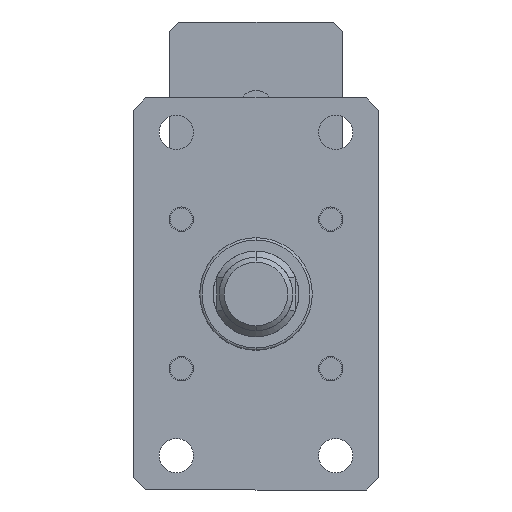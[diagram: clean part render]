
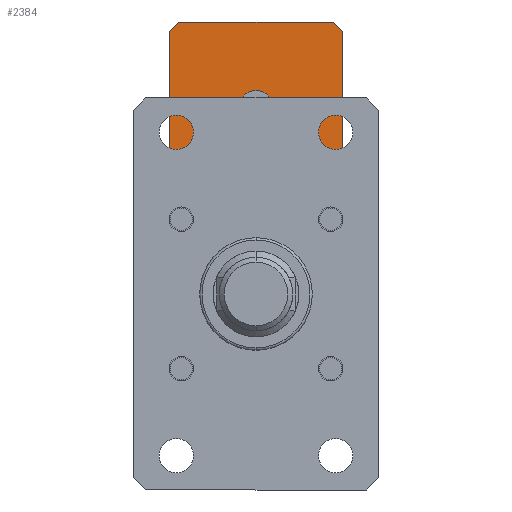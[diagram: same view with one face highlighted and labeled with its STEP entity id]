
A CAD part, front view. The second image highlights one B-rep face of the part: STEP entity #2384.
In plain terms, the highlighted planar face has unit normal (0, -1, 0).
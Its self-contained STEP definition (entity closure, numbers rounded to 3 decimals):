
#124 = ORIENTED_EDGE ( 'NONE', *, *, #5521, .T. ) ;
#230 = ORIENTED_EDGE ( 'NONE', *, *, #1427, .F. ) ;
#272 = CARTESIAN_POINT ( 'NONE',  ( -31.5, 160., 40. ) ) ;
#286 = DIRECTION ( 'NONE',  ( 1., 0., 0. ) ) ;
#388 = CARTESIAN_POINT ( 'NONE',  ( 31.5, 160., 111. ) ) ;
#442 = VECTOR ( 'NONE', #559, 1000. ) ;
#477 = CARTESIAN_POINT ( 'NONE',  ( -35.5, 160., 111. ) ) ;
#514 = LINE ( 'NONE', #477, #4788 ) ;
#559 = DIRECTION ( 'NONE',  ( 0.707, 0., -0.707 ) ) ;
#670 = LINE ( 'NONE', #2531, #6254 ) ;
#721 = ORIENTED_EDGE ( 'NONE', *, *, #3285, .T. ) ;
#755 = LINE ( 'NONE', #5013, #3542 ) ;
#827 = VERTEX_POINT ( 'NONE', #388 ) ;
#854 = ORIENTED_EDGE ( 'NONE', *, *, #5944, .T. ) ;
#894 = VECTOR ( 'NONE', #2028, 1000. ) ;
#903 = DIRECTION ( 'NONE',  ( 0., 1., 0. ) ) ;
#951 = DIRECTION ( 'NONE',  ( 0., -1., 0. ) ) ;
#1174 = CARTESIAN_POINT ( 'NONE',  ( -35.5, 160., 44. ) ) ;
#1205 = LINE ( 'NONE', #2081, #6780 ) ;
#1338 = CARTESIAN_POINT ( 'NONE',  ( -35.5, 160., 40. ) ) ;
#1339 = CARTESIAN_POINT ( 'NONE',  ( 31.5, 160., 40. ) ) ;
#1388 = AXIS2_PLACEMENT_3D ( 'NONE', #4273, #951, #4843 ) ;
#1427 = EDGE_CURVE ( 'NONE', #5703, #4968, #1205, .T. ) ;
#1730 = CIRCLE ( 'NONE', #1388, 7.5 ) ;
#1778 = DIRECTION ( 'NONE',  ( 0., -1., 0. ) ) ;
#1963 = VERTEX_POINT ( 'NONE', #4812 ) ;
#1995 = PLANE ( 'NONE',  #3439 ) ;
#2028 = DIRECTION ( 'NONE',  ( -0.707, 0., 0.707 ) ) ;
#2081 = CARTESIAN_POINT ( 'NONE',  ( 35.5, 160., 111. ) ) ;
#2094 = VERTEX_POINT ( 'NONE', #1174 ) ;
#2170 = LINE ( 'NONE', #2194, #5132 ) ;
#2171 = ORIENTED_EDGE ( 'NONE', *, *, #4460, .F. ) ;
#2194 = CARTESIAN_POINT ( 'NONE',  ( 35.5, 160., 44. ) ) ;
#2318 = VERTEX_POINT ( 'NONE', #1339 ) ;
#2384 = ADVANCED_FACE ( 'NONE', ( #6369, #3393 ), #1995, .F. ) ;
#2413 = VERTEX_POINT ( 'NONE', #272 ) ;
#2531 = CARTESIAN_POINT ( 'NONE',  ( -35.5, 160., 111. ) ) ;
#2624 = EDGE_CURVE ( 'NONE', #1963, #2094, #514, .T. ) ;
#2759 = EDGE_LOOP ( 'NONE', ( #3368, #124, #854, #7064, #230, #3969, #5614, #721 ) ) ;
#2781 = CARTESIAN_POINT ( 'NONE',  ( -35.5, 160., 44. ) ) ;
#3285 = EDGE_CURVE ( 'NONE', #6484, #1963, #755, .T. ) ;
#3368 = ORIENTED_EDGE ( 'NONE', *, *, #2624, .T. ) ;
#3393 = FACE_OUTER_BOUND ( 'NONE', #2759, .T. ) ;
#3439 = AXIS2_PLACEMENT_3D ( 'NONE', #7006, #903, #4802 ) ;
#3542 = VECTOR ( 'NONE', #5575, 1000. ) ;
#3675 = LINE ( 'NONE', #5361, #894 ) ;
#3735 = VECTOR ( 'NONE', #6922, 1000. ) ;
#3931 = CARTESIAN_POINT ( 'NONE',  ( 0., 160., 83. ) ) ;
#3934 = CIRCLE ( 'NONE', #5546, 7.5 ) ;
#3969 = ORIENTED_EDGE ( 'NONE', *, *, #4719, .T. ) ;
#4273 = CARTESIAN_POINT ( 'NONE',  ( 0., 160., 75.5 ) ) ;
#4344 = CARTESIAN_POINT ( 'NONE',  ( 0., 160., 68. ) ) ;
#4367 = DIRECTION ( 'NONE',  ( 0., 0., -1. ) ) ;
#4460 = EDGE_CURVE ( 'NONE', #6989, #5635, #3934, .T. ) ;
#4719 = EDGE_CURVE ( 'NONE', #5703, #827, #3675, .T. ) ;
#4788 = VECTOR ( 'NONE', #4367, 1000. ) ;
#4802 = DIRECTION ( 'NONE',  ( 0., 0., 1. ) ) ;
#4812 = CARTESIAN_POINT ( 'NONE',  ( -35.5, 160., 107. ) ) ;
#4843 = DIRECTION ( 'NONE',  ( 0., 0., -1. ) ) ;
#4968 = VERTEX_POINT ( 'NONE', #6702 ) ;
#4998 = CARTESIAN_POINT ( 'NONE',  ( 35.5, 160., 107. ) ) ;
#5013 = CARTESIAN_POINT ( 'NONE',  ( -31.5, 160., 111. ) ) ;
#5131 = CARTESIAN_POINT ( 'NONE',  ( 0., 160., 75.5 ) ) ;
#5132 = VECTOR ( 'NONE', #6090, 1000. ) ;
#5226 = LINE ( 'NONE', #1338, #3735 ) ;
#5361 = CARTESIAN_POINT ( 'NONE',  ( 31.5, 160., 111. ) ) ;
#5521 = EDGE_CURVE ( 'NONE', #2094, #2413, #6371, .T. ) ;
#5546 = AXIS2_PLACEMENT_3D ( 'NONE', #5131, #1778, #5675 ) ;
#5575 = DIRECTION ( 'NONE',  ( -0.707, 0., -0.707 ) ) ;
#5614 = ORIENTED_EDGE ( 'NONE', *, *, #6602, .F. ) ;
#5635 = VERTEX_POINT ( 'NONE', #3931 ) ;
#5675 = DIRECTION ( 'NONE',  ( 0., 0., -1. ) ) ;
#5703 = VERTEX_POINT ( 'NONE', #4998 ) ;
#5932 = ORIENTED_EDGE ( 'NONE', *, *, #6085, .F. ) ;
#5944 = EDGE_CURVE ( 'NONE', #2413, #2318, #5226, .T. ) ;
#6009 = DIRECTION ( 'NONE',  ( 0., 0., -1. ) ) ;
#6085 = EDGE_CURVE ( 'NONE', #5635, #6989, #1730, .T. ) ;
#6090 = DIRECTION ( 'NONE',  ( 0.707, 0., 0.707 ) ) ;
#6225 = EDGE_CURVE ( 'NONE', #2318, #4968, #2170, .T. ) ;
#6254 = VECTOR ( 'NONE', #286, 1000. ) ;
#6314 = CARTESIAN_POINT ( 'NONE',  ( -31.5, 160., 111. ) ) ;
#6369 = FACE_BOUND ( 'NONE', #6916, .T. ) ;
#6371 = LINE ( 'NONE', #2781, #442 ) ;
#6484 = VERTEX_POINT ( 'NONE', #6314 ) ;
#6602 = EDGE_CURVE ( 'NONE', #6484, #827, #670, .T. ) ;
#6702 = CARTESIAN_POINT ( 'NONE',  ( 35.5, 160., 44. ) ) ;
#6780 = VECTOR ( 'NONE', #6009, 1000. ) ;
#6916 = EDGE_LOOP ( 'NONE', ( #2171, #5932 ) ) ;
#6922 = DIRECTION ( 'NONE',  ( 1., 0., 0. ) ) ;
#6989 = VERTEX_POINT ( 'NONE', #4344 ) ;
#7006 = CARTESIAN_POINT ( 'NONE',  ( -35.5, 160., 111. ) ) ;
#7064 = ORIENTED_EDGE ( 'NONE', *, *, #6225, .T. ) ;
